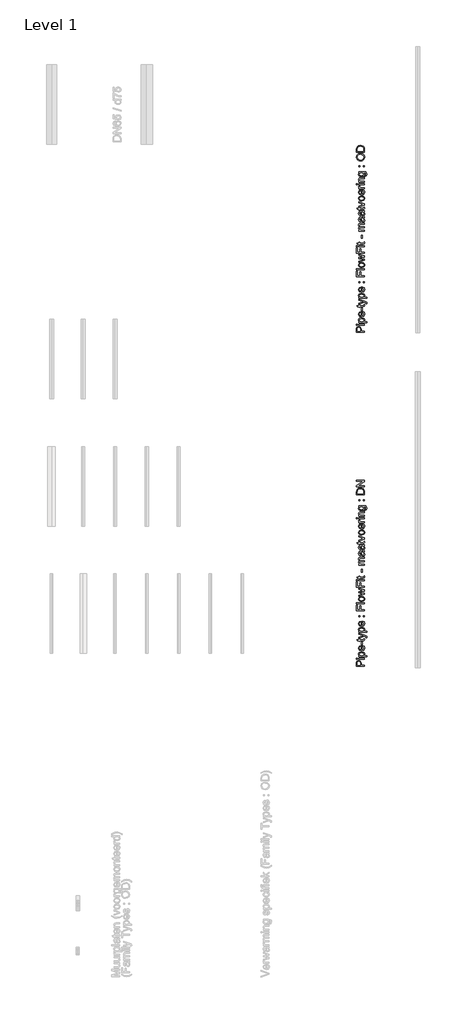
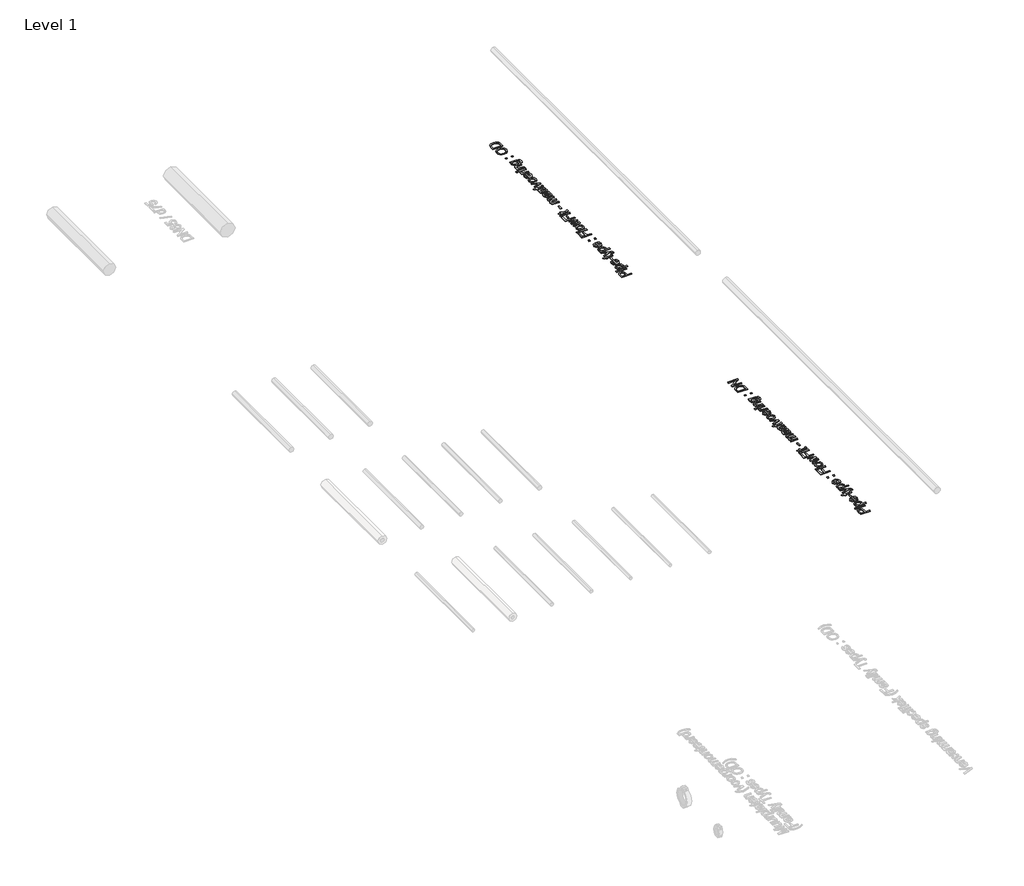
# One storey, part 11 of 11: 2 proxies.
"""IFC4 building model written with IfcOpenShell, lengths in millimetres."""

from ifc_helpers import new_model, si_unit, origin, origin_with_axes, place, context, project, spatial, polyline, outline, extrude, element, save

model = new_model("IFC4")

# Units and contexts
model_context = context("Model", 3, world=origin())
ifc_project = project(units=[si_unit("LENGTHUNIT", "METRE", prefix="MILLI")], contexts=[model_context])

# Site, building, storey
site = spatial("IfcSite", under=ifc_project)
building = spatial("IfcBuilding", under=site)
storey = spatial("IfcBuildingStorey", under=building, Name="Level 1", Elevation=0.0)

# Proxies
placement = place(None, origin())
element("IfcBuildingElementProxy", 1, Name="S", ObjectType="S", at=placement, inside=storey, context=model_context, shape_type="SweptSolid", body=[
    extrude(outline(polyline([(4105.0, 4008.4123634), (4054.7718449, 4008.4123634), (4054.7718449, 4027.0271924), (4055.2500915, 4034.5319851), (4057.5984049, 4040.6326948), (4062.4544473, 4044.5874263), (4069.3031837, 4046.0834797), (4080.1557026, 4042.0429092), (4084.594812, 4027.4563881), (4084.594812, 4014.6908828), (4105.0, 4014.6908828), (4105.0, 4008.4123634)]), holes=[polyline([(4078.3162926, 4014.6908828), (4078.3162926, 4027.82427), (4076.0108988, 4037.0703709), (4069.5239129, 4039.8049604), (4064.3245141, 4038.1924109), (4061.47956, 4033.9556366), (4061.0503643, 4027.6771172), (4061.0503643, 4014.6908828), (4078.3162926, 4014.6908828)])]), origin_with_axes(), (0.0, 0.0, 1.0), 3.0),
    extrude(outline(polyline([(4105.0, 4053.931629), (4068.1136986, 4053.931629), (4068.1136986, 4060.2101484), (4105.0, 4060.2101484), (4105.0, 4053.931629)])), origin_with_axes(), (0.0, 0.0, 1.0), 3.0),
    extrude(outline(polyline([(4061.0503643, 4053.931629), (4054.7718449, 4053.931629), (4054.7718449, 4060.2101484), (4061.0503643, 4060.2101484), (4061.0503643, 4053.931629)])), origin_with_axes(), (0.0, 0.0, 1.0), 3.0),
    extrude(outline(polyline([(4119.1266686, 4069.6279274), (4068.1136986, 4069.6279274), (4068.1136986, 4075.9064468), (4074.2695907, 4075.9064468), (4069.0640604, 4080.2474544), (4067.3288837, 4086.1090408), (4069.7569049, 4094.0675546), (4076.59951, 4099.2669535), (4086.2748064, 4101.0205244), (4096.4467436, 4099.0400929), (4103.3751879, 4093.2888711), (4105.7848149, 4085.3487514), (4104.1722655, 4079.8857037), (4100.0949067, 4075.9064468), (4119.1266686, 4075.9064468), (4119.1266686, 4069.6279274)]), holes=[polyline([(4086.8511549, 4075.9064468), (4096.4160868, 4078.6226422), (4099.5062955, 4085.2138613), (4096.3057222, 4091.9399704), (4086.385171, 4094.742005), (4076.7957137, 4092.0074155), (4073.6074031, 4085.4713787), (4076.9980488, 4078.8065832), (4086.8511549, 4075.9064468)])]), origin_with_axes(), (0.0, 0.0, 1.0), 3.0),
    extrude(outline(polyline([(4094.0125911, 4133.9091747), (4094.797406, 4140.0650668), (4102.9030726, 4134.3077136), (4105.7848149, 4123.5839534), (4100.8122766, 4110.548668), (4086.8634176, 4105.7294139), (4072.4547062, 4110.597719), (4067.3288837, 4123.2283341), (4072.4424434, 4135.4971987), (4086.8266294, 4140.2612705), (4088.5188866, 4140.2244823), (4088.5188866, 4112.0079333), (4096.6736042, 4115.6193082), (4099.5062955, 4123.7065807), (4098.1941831, 4129.8624728), (4094.0125911, 4133.9091747)]), holes=[polyline([(4082.2403672, 4112.0079333), (4082.2403672, 4133.9827511), (4076.550459, 4131.4688908), (4073.6074031, 4123.2038087), (4075.9557165, 4115.4721554), (4082.2403672, 4112.0079333)])]), origin_with_axes(), (0.0, 0.0, 1.0), 3.0),
    extrude(outline(polyline([(4090.0885165, 4143.4005302), (4083.8099971, 4143.4005302), (4083.8099971, 4163.0209033), (4090.0885165, 4163.0209033), (4090.0885165, 4143.4005302)])), origin_with_axes(), (0.0, 0.0, 1.0), 3.0),
    extrude(outline(polyline([(4099.7638129, 4183.4260913), (4105.183941, 4184.2109062), (4105.7848149, 4179.5142794), (4104.7424826, 4174.2535669), (4102.0078931, 4171.629342), (4094.8832451, 4170.8690525), (4074.392218, 4170.8690525), (4074.392218, 4166.160163), (4068.1136986, 4166.160163), (4068.1136986, 4170.8690525), (4059.1496407, 4170.8690525), (4055.458558, 4177.1475719), (4068.1136986, 4177.1475719), (4068.1136986, 4183.4260913), (4074.392218, 4183.4260913), (4074.392218, 4177.1475719), (4094.6993041, 4177.1475719), (4097.9366657, 4177.4786657), (4099.5062955, 4180.6915018), (4099.7638129, 4183.4260913)])), origin_with_axes(), (0.0, 0.0, 1.0), 3.0),
    extrude(outline(polyline([(4119.1266686, 4189.7046107), (4113.0811412, 4188.9197957), (4113.6329642, 4192.1081064), (4112.9401197, 4195.0879505), (4111.0087393, 4196.9150978), (4106.3856888, 4198.6318804), (4104.8651099, 4199.1223897), (4068.1136986, 4185.780536), (4068.1136986, 4192.402412), (4088.592463, 4199.478009), (4096.7839688, 4201.9428184), (4089.5489562, 4204.4076277), (4068.1136986, 4211.6794285), (4068.1136986, 4218.2522535), (4105.8829168, 4205.4131719), (4114.0744225, 4202.0777084), (4118.5012692, 4198.4356767), (4119.9114835, 4193.5428461), (4119.1266686, 4189.7046107)])), origin_with_axes(), (0.0, 0.0, 1.0), 3.0),
    extrude(outline(polyline([(4119.1266686, 4223.4516523), (4068.1136986, 4223.4516523), (4068.1136986, 4229.7301717), (4074.2695907, 4229.7301717), (4069.0640604, 4234.0711793), (4067.3288837, 4239.9327657), (4069.7569049, 4247.8912796), (4076.59951, 4253.0906784), (4086.2748064, 4254.8442493), (4096.4467436, 4252.8638179), (4103.3751879, 4247.112596), (4105.7848149, 4239.1724763), (4104.1722655, 4233.7094286), (4100.0949067, 4229.7301717), (4119.1266686, 4229.7301717), (4119.1266686, 4223.4516523)]), holes=[polyline([(4086.8511549, 4229.7301717), (4096.4160868, 4232.4463671), (4099.5062955, 4239.0375862), (4096.3057222, 4245.7636954), (4086.385171, 4248.5657299), (4076.7957137, 4245.8311404), (4073.6074031, 4239.2951036), (4076.9980488, 4232.6303081), (4086.8511549, 4229.7301717)])]), origin_with_axes(), (0.0, 0.0, 1.0), 3.0),
    extrude(outline(polyline([(4094.0125911, 4287.7328996), (4094.797406, 4293.8887917), (4102.9030726, 4288.1314385), (4105.7848149, 4277.4076783), (4100.8122766, 4264.3723929), (4086.8634176, 4259.5531388), (4072.4547062, 4264.4214439), (4067.3288837, 4277.052059), (4072.4424434, 4289.3209236), (4086.8266294, 4294.0849954), (4088.5188866, 4294.0482072), (4088.5188866, 4265.8316582), (4096.6736042, 4269.4430331), (4099.5062955, 4277.5303056), (4098.1941831, 4283.6861977), (4094.0125911, 4287.7328996)]), holes=[polyline([(4082.2403672, 4265.8316582), (4082.2403672, 4287.806476), (4076.550459, 4285.2926157), (4073.6074031, 4277.0275336), (4075.9557165, 4269.2958803), (4082.2403672, 4265.8316582)])]), origin_with_axes(), (0.0, 0.0, 1.0), 3.0),
    extrude(outline(polyline([(4074.392218, 4321.5535177), (4068.1136986, 4321.5535177), (4068.1136986, 4327.8320371), (4074.392218, 4327.8320371), (4074.392218, 4321.5535177)])), origin_with_axes(), (0.0, 0.0, 1.0), 3.0),
    extrude(outline(polyline([(4105.0, 4321.5535177), (4098.7214806, 4321.5535177), (4098.7214806, 4327.8320371), (4105.0, 4327.8320371), (4105.0, 4321.5535177)])), origin_with_axes(), (0.0, 0.0, 1.0), 3.0),
    extrude(outline(polyline([(4105.0, 4360.009449), (4054.7718449, 4360.009449), (4054.7718449, 4393.7564907), (4061.0503643, 4393.7564907), (4061.0503643, 4366.2879683), (4075.9618478, 4366.2879683), (4075.9618478, 4389.832416), (4082.2403672, 4389.832416), (4082.2403672, 4366.2879683), (4105.0, 4366.2879683), (4105.0, 4360.009449)])), origin_with_axes(), (0.0, 0.0, 1.0), 3.0),
    extrude(outline(polyline([(4105.0, 4401.6046399), (4054.7718449, 4401.6046399), (4054.7718449, 4407.8831593), (4105.0, 4407.8831593), (4105.0, 4401.6046399)])), origin_with_axes(), (0.0, 0.0, 1.0), 3.0),
    extrude(outline(polyline([(4086.5568493, 4415.7313085), (4077.6633021, 4417.0894062), (4071.4123738, 4421.1636993), (4067.3288837, 4432.2246846), (4072.301422, 4444.088879), (4086.0418145, 4448.6935353), (4097.2131644, 4446.6579216), (4103.5346034, 4440.7288901), (4105.7848149, 4432.2246846), (4100.8306707, 4420.2869139), (4086.5568493, 4415.7313085)]), holes=[polyline([(4086.5445866, 4422.0098279), (4096.2750653, 4424.9160956), (4099.5062955, 4432.2246846), (4096.2566712, 4439.5087481), (4086.3483828, 4442.4150159), (4076.8386333, 4439.490354), (4073.6074031, 4432.2246846), (4076.8263705, 4424.9160956), (4086.5445866, 4422.0098279)])]), origin_with_axes(), (0.0, 0.0, 1.0), 3.0),
    extrude(outline(polyline([(4105.0, 4461.8759734), (4068.1136986, 4450.6555726), (4068.1136986, 4457.1793466), (4089.6347953, 4463.5437051), (4097.323529, 4465.4444288), (4089.9168382, 4467.0017959), (4068.1136986, 4472.0663047), (4068.1136986, 4479.5465719), (4089.8555245, 4484.5865553), (4096.5632396, 4485.9722441), (4089.4876425, 4487.9588069), (4068.1136986, 4494.3354281), (4068.1136986, 4500.8837276), (4105.0, 4489.5774877), (4105.0, 4481.9868558), (4083.3685387, 4477.1676017), (4076.6240354, 4475.7696501), (4105.0, 4469.5524444), (4105.0, 4461.8759734)])), origin_with_axes(), (0.0, 0.0, 1.0), 3.0),
    extrude(outline(polyline([(4105.0, 4505.9850246), (4054.7718449, 4505.9850246), (4054.7718449, 4539.7320663), (4061.0503643, 4539.7320663), (4061.0503643, 4512.263544), (4075.9618478, 4512.263544), (4075.9618478, 4535.8079917), (4082.2403672, 4535.8079917), (4082.2403672, 4512.263544), (4105.0, 4512.263544), (4105.0, 4505.9850246)])), origin_with_axes(), (0.0, 0.0, 1.0), 3.0),
    extrude(outline(polyline([(4061.0503643, 4547.5802156), (4054.7718449, 4547.5802156), (4054.7718449, 4553.858735), (4061.0503643, 4553.858735), (4061.0503643, 4547.5802156)])), origin_with_axes(), (0.0, 0.0, 1.0), 3.0),
    extrude(outline(polyline([(4105.0, 4547.5802156), (4068.1136986, 4547.5802156), (4068.1136986, 4553.858735), (4105.0, 4553.858735), (4105.0, 4547.5802156)])), origin_with_axes(), (0.0, 0.0, 1.0), 3.0),
    extrude(outline(polyline([(4099.7638129, 4576.6183677), (4105.183941, 4577.4031826), (4105.7848149, 4572.7065558), (4104.7424826, 4567.4458433), (4102.0078931, 4564.8216184), (4094.8832451, 4564.061329), (4074.392218, 4564.061329), (4074.392218, 4559.3524394), (4068.1136986, 4559.3524394), (4068.1136986, 4564.061329), (4059.1496407, 4564.061329), (4055.458558, 4570.3398483), (4068.1136986, 4570.3398483), (4068.1136986, 4576.6183677), (4074.392218, 4576.6183677), (4074.392218, 4570.3398483), (4094.6993041, 4570.3398483), (4097.9366657, 4570.6709421), (4099.5062955, 4573.8837782), (4099.7638129, 4576.6183677)])), origin_with_axes(), (0.0, 0.0, 1.0), 3.0),
    extrude(outline(polyline([(4090.0885165, 4599.3780005), (4083.8099971, 4599.3780005), (4083.8099971, 4618.9983736), (4090.0885165, 4618.9983736), (4090.0885165, 4599.3780005)])), origin_with_axes(), (0.0, 0.0, 1.0), 3.0),
    extrude(outline(polyline([(4105.0, 4645.6820809), (4068.1136986, 4645.6820809), (4068.1136986, 4651.9606003), (4074.1837515, 4651.9606003), (4069.2112132, 4656.2770824), (4067.3288837, 4662.4207117), (4069.2480014, 4668.7114938), (4074.6252099, 4672.1695846), (4069.1529653, 4677.0685465), (4067.3288837, 4683.2550954), (4070.3639102, 4691.4649952), (4079.7142442, 4694.3406062), (4105.0, 4694.3406062), (4105.0, 4688.0620868), (4082.4120455, 4688.0620868), (4077.1697271, 4687.479607), (4074.5884217, 4685.3704169), (4073.6074031, 4681.7835674), (4076.1212634, 4675.6092813), (4084.1778791, 4673.1506033), (4105.0, 4673.1506033), (4105.0, 4666.8720839), (4081.7130697, 4666.8720839), (4075.6307541, 4665.41895), (4073.6074031, 4660.6548782), (4074.9563037, 4656.0073023), (4078.9049038, 4652.9170935), (4086.3974338, 4651.9606003), (4105.0, 4651.9606003), (4105.0, 4645.6820809)])), origin_with_axes(), (0.0, 0.0, 1.0), 3.0),
    extrude(outline(polyline([(4100.2911105, 4727.3028329), (4104.5462789, 4721.2143859), (4105.7848149, 4714.4882768), (4102.8049708, 4705.3709347), (4095.1898135, 4702.1887554), (4090.2234065, 4703.3905033), (4086.618163, 4706.548157), (4084.5580238, 4710.9443469), (4083.6137933, 4716.3767377), (4081.4555523, 4727.2660447), (4075.4222876, 4725.5737876), (4073.6074031, 4718.6330806), (4074.8152823, 4712.2809848), (4079.1011075, 4709.2520897), (4078.3162926, 4702.9735703), (4072.184926, 4705.6897657), (4068.5919452, 4711.1589447), (4067.3288837, 4719.442421), (4068.4447924, 4727.0514469), (4071.2468269, 4731.3495349), (4075.5081267, 4733.274784), (4081.0018312, 4733.5813523), (4088.8131922, 4733.5813523), (4099.7208934, 4733.9001834), (4105.0, 4735.1509822), (4105.0, 4728.8724628), (4100.2911105, 4727.3028329)]), holes=[polyline([(4087.7340717, 4727.3028329), (4089.6593208, 4717.1738153), (4090.6771277, 4711.7720814), (4092.3325966, 4709.3256661), (4094.7483551, 4708.4672748), (4098.1451322, 4710.3373416), (4099.5062955, 4715.8249147), (4098.0041107, 4722.1770105), (4094.3682103, 4726.2727634), (4089.512168, 4727.2660447), (4087.7340717, 4727.3028329)])]), origin_with_axes(), (0.0, 0.0, 1.0), 3.0),
    extrude(outline(polyline([(4100.2911105, 4765.7587642), (4104.5462789, 4759.6703172), (4105.7848149, 4752.944208), (4102.8049708, 4743.8268659), (4095.1898135, 4740.6446866), (4090.2234065, 4741.8464345), (4086.618163, 4745.0040883), (4084.5580238, 4749.4002781), (4083.6137933, 4754.8326689), (4081.4555523, 4765.721976), (4075.4222876, 4764.0297188), (4073.6074031, 4757.0890118), (4074.8152823, 4750.736916), (4079.1011075, 4747.7080209), (4078.3162926, 4741.4295016), (4072.184926, 4744.145697), (4068.5919452, 4749.614876), (4067.3288837, 4757.8983522), (4068.4447924, 4765.5073781), (4071.2468269, 4769.8054661), (4075.5081267, 4771.7307152), (4081.0018312, 4772.0372836), (4088.8131922, 4772.0372836), (4099.7208934, 4772.3561146), (4105.0, 4773.6069134), (4105.0, 4767.328394), (4100.2911105, 4765.7587642)]), holes=[polyline([(4087.7340717, 4765.7587642), (4089.6593208, 4755.6297466), (4090.6771277, 4750.2280126), (4092.3325966, 4747.7815973), (4094.7483551, 4746.923206), (4098.1451322, 4748.7932728), (4099.5062955, 4754.2808459), (4098.0041107, 4760.6329417), (4094.3682103, 4764.7286946), (4089.512168, 4765.721976), (4087.7340717, 4765.7587642)])]), origin_with_axes(), (0.0, 0.0, 1.0), 3.0),
    extrude(outline(polyline([(4099.7638129, 4794.0121014), (4105.183941, 4794.7969163), (4105.7848149, 4790.1002895), (4104.7424826, 4784.839577), (4102.0078931, 4782.2153521), (4094.8832451, 4781.4550626), (4074.392218, 4781.4550626), (4074.392218, 4776.7461731), (4068.1136986, 4776.7461731), (4068.1136986, 4781.4550626), (4059.1496407, 4781.4550626), (4055.458558, 4787.733582), (4068.1136986, 4787.733582), (4068.1136986, 4794.0121014), (4074.392218, 4794.0121014), (4074.392218, 4787.733582), (4094.6993041, 4787.733582), (4097.9366657, 4788.0646758), (4099.5062955, 4791.2775119), (4099.7638129, 4794.0121014)])), origin_with_axes(), (0.0, 0.0, 1.0), 3.0),
    extrude(outline(polyline([(4105.0, 4809.3405179), (4068.1136986, 4796.3665462), (4068.1136986, 4803.0129476), (4090.2111438, 4810.8733595), (4097.6423601, 4813.240067), (4090.6280767, 4815.5577236), (4068.1136986, 4823.4671865), (4068.1136986, 4830.1135879), (4105.0, 4817.2990317), (4105.0, 4809.3405179)])), origin_with_axes(), (0.0, 0.0, 1.0), 3.0),
    extrude(outline(polyline([(4086.5568493, 4834.0376625), (4077.6633021, 4835.3957602), (4071.4123738, 4839.4700533), (4067.3288837, 4850.5310386), (4072.301422, 4862.3952329), (4086.0418145, 4866.9998892), (4097.2131644, 4864.9642755), (4103.5346034, 4859.0352441), (4105.7848149, 4850.5310386), (4100.8306707, 4838.5932679), (4086.5568493, 4834.0376625)]), holes=[polyline([(4086.5445866, 4840.3161819), (4096.2750653, 4843.2224496), (4099.5062955, 4850.5310386), (4096.2566712, 4857.8151021), (4086.3483828, 4860.7213699), (4076.8386333, 4857.796708), (4073.6074031, 4850.5310386), (4076.8263705, 4843.2224496), (4086.5445866, 4840.3161819)])]), origin_with_axes(), (0.0, 0.0, 1.0), 3.0),
    extrude(outline(polyline([(4094.0125911, 4899.8885396), (4094.797406, 4906.0444317), (4102.9030726, 4900.2870784), (4105.7848149, 4889.5633183), (4100.8122766, 4876.5280329), (4086.8634176, 4871.7087788), (4072.4547062, 4876.5770839), (4067.3288837, 4889.207699), (4072.4424434, 4901.4765636), (4086.8266294, 4906.2406354), (4088.5188866, 4906.2038472), (4088.5188866, 4877.9872982), (4096.6736042, 4881.5986731), (4099.5062955, 4889.6859456), (4098.1941831, 4895.8418377), (4094.0125911, 4899.8885396)]), holes=[polyline([(4082.2403672, 4877.9872982), (4082.2403672, 4899.962116), (4076.550459, 4897.4482557), (4073.6074031, 4889.1831736), (4075.9557165, 4881.4515203), (4082.2403672, 4877.9872982)])]), origin_with_axes(), (0.0, 0.0, 1.0), 3.0),
    extrude(outline(polyline([(4105.0, 4912.5191548), (4068.1136986, 4912.5191548), (4068.1136986, 4918.0128592), (4073.5706149, 4918.0128592), (4068.5428943, 4921.9124084), (4067.3288837, 4925.836483), (4069.2663955, 4932.1395279), (4074.8949901, 4930.0426005), (4073.6074031, 4925.6280165), (4074.8459391, 4922.0779553), (4078.2795044, 4919.815481), (4085.6126189, 4918.7976742), (4105.0, 4918.7976742), (4105.0, 4912.5191548)])), origin_with_axes(), (0.0, 0.0, 1.0), 3.0),
    extrude(outline(polyline([(4061.0503643, 4936.0636025), (4054.7718449, 4936.0636025), (4054.7718449, 4942.3421219), (4061.0503643, 4942.3421219), (4061.0503643, 4936.0636025)])), origin_with_axes(), (0.0, 0.0, 1.0), 3.0),
    extrude(outline(polyline([(4105.0, 4936.0636025), (4068.1136986, 4936.0636025), (4068.1136986, 4942.3421219), (4105.0, 4942.3421219), (4105.0, 4936.0636025)])), origin_with_axes(), (0.0, 0.0, 1.0), 3.0),
    extrude(outline(polyline([(4105.0, 4951.7599009), (4068.1136986, 4951.7599009), (4068.1136986, 4958.0384203), (4073.2640465, 4958.0384203), (4068.8126744, 4962.8392804), (4067.3288837, 4969.3937112), (4068.5245002, 4975.3227427), (4071.6637599, 4979.3694447), (4076.2806789, 4981.2517742), (4082.3507318, 4981.582868), (4105.0, 4981.582868), (4105.0, 4975.3043486), (4083.1968604, 4975.3043486), (4077.6418423, 4974.5808474), (4074.7049177, 4972.0240675), (4073.6074031, 4967.7137168), (4076.0722124, 4960.9017685), (4085.4286779, 4958.0384203), (4105.0, 4958.0384203), (4105.0, 4951.7599009)])), origin_with_axes(), (0.0, 0.0, 1.0), 3.0),
    extrude(outline(polyline([(4108.1392597, 4988.6462023), (4108.9240746, 4994.9247217), (4112.2350126, 4996.9603354), (4113.6329642, 5003.0549138), (4112.0510716, 5009.480586), (4107.6119622, 5012.5462693), (4100.2911105, 5012.9754649), (4105.0, 5003.1652784), (4103.6296396, 4996.6920881), (4099.5185583, 4991.8651698), (4086.3729083, 4987.8613874), (4076.6424295, 4989.6578778), (4069.7569049, 4994.8572767), (4067.3288837, 5002.8587101), (4072.8225882, 5012.9754649), (4068.1136986, 5012.9754649), (4068.1136986, 5019.2539843), (4099.9600167, 5019.2539843), (4112.1553048, 5017.5372017), (4117.8268189, 5012.0986795), (4119.9114835, 5002.9322865), (4116.9745589, 4992.4905692), (4108.1392597, 4988.6462023)]), holes=[polyline([(4085.9437126, 4994.1399068), (4095.6619287, 4996.819314), (4098.7214806, 5003.5454231), (4095.6803228, 5010.2592695), (4086.1276536, 5012.9754649), (4076.7650569, 5010.1795618), (4073.6074031, 5003.4473213), (4076.7160059, 4996.8561022), (4085.9437126, 4994.1399068)])]), origin_with_axes(), (0.0, 0.0, 1.0), 3.0),
    extrude(outline(polyline([(4074.392218, 5049.8617663), (4068.1136986, 5049.8617663), (4068.1136986, 5056.1402857), (4074.392218, 5056.1402857), (4074.392218, 5049.8617663)])), origin_with_axes(), (0.0, 0.0, 1.0), 3.0),
    extrude(outline(polyline([(4105.0, 5049.8617663), (4098.7214806, 5049.8617663), (4098.7214806, 5056.1402857), (4105.0, 5056.1402857), (4105.0, 5049.8617663)])), origin_with_axes(), (0.0, 0.0, 1.0), 3.0),
    extrude(outline(polyline([(4105.0, 5088.3176975), (4054.7718449, 5088.3176975), (4054.7718449, 5105.6449395), (4055.4953462, 5114.6089975), (4059.088327, 5121.9911628), (4067.6722402, 5127.9385884), (4079.6161423, 5129.9128885), (4089.7512913, 5128.5762505), (4097.0660116, 5125.1426853), (4101.621617, 5120.5564231), (4104.1416087, 5114.5538152), (4105.0, 5106.4788054), (4105.0, 5088.3176975)]), holes=[polyline([(4098.7214806, 5094.5962169), (4098.7214806, 5105.7062532), (4097.8140384, 5113.7873943), (4095.2511271, 5118.4472329), (4089.0155273, 5122.2670743), (4079.5180405, 5123.6343691), (4067.6231893, 5120.9549619), (4062.0559084, 5114.4373192), (4061.0503643, 5105.5345749), (4061.0503643, 5094.5962169), (4098.7214806, 5094.5962169)])]), origin_with_axes(), (0.0, 0.0, 1.0), 3.0),
    extrude(outline(polyline([(4105.0, 5138.5458526), (4054.7718449, 5138.5458526), (4054.7718449, 5145.2658304), (4094.5644141, 5171.5080794), (4054.7718449, 5171.5080794), (4054.7718449, 5177.7865988), (4105.0, 5177.7865988), (4105.0, 5171.066621), (4065.1951681, 5144.824372), (4105.0, 5144.824372), (4105.0, 5138.5458526)])), origin_with_axes(), (0.0, 0.0, 1.0), 3.0),
])
element("IfcBuildingElementProxy", 2, Name="S", ObjectType="S", at=placement, inside=storey, context=model_context, shape_type="SweptSolid", body=[
    extrude(outline(polyline([(4105.0, 6108.4123634), (4054.7718449, 6108.4123634), (4054.7718449, 6127.0271924), (4055.2500915, 6134.5319851), (4057.5984049, 6140.6326948), (4062.4544473, 6144.5874263), (4069.3031837, 6146.0834797), (4080.1557026, 6142.0429092), (4084.594812, 6127.4563881), (4084.594812, 6114.6908828), (4105.0, 6114.6908828), (4105.0, 6108.4123634)]), holes=[polyline([(4078.3162926, 6114.6908828), (4078.3162926, 6127.82427), (4076.0108988, 6137.0703709), (4069.5239129, 6139.8049604), (4064.3245141, 6138.1924109), (4061.47956, 6133.9556366), (4061.0503643, 6127.6771172), (4061.0503643, 6114.6908828), (4078.3162926, 6114.6908828)])]), origin_with_axes(), (0.0, 0.0, 1.0), 3.0),
    extrude(outline(polyline([(4105.0, 6153.931629), (4068.1136986, 6153.931629), (4068.1136986, 6160.2101484), (4105.0, 6160.2101484), (4105.0, 6153.931629)])), origin_with_axes(), (0.0, 0.0, 1.0), 3.0),
    extrude(outline(polyline([(4061.0503643, 6153.931629), (4054.7718449, 6153.931629), (4054.7718449, 6160.2101484), (4061.0503643, 6160.2101484), (4061.0503643, 6153.931629)])), origin_with_axes(), (0.0, 0.0, 1.0), 3.0),
    extrude(outline(polyline([(4119.1266686, 6169.6279274), (4068.1136986, 6169.6279274), (4068.1136986, 6175.9064468), (4074.2695907, 6175.9064468), (4069.0640604, 6180.2474544), (4067.3288837, 6186.1090408), (4069.7569049, 6194.0675546), (4076.59951, 6199.2669535), (4086.2748064, 6201.0205244), (4096.4467436, 6199.0400929), (4103.3751879, 6193.2888711), (4105.7848149, 6185.3487514), (4104.1722655, 6179.8857037), (4100.0949067, 6175.9064468), (4119.1266686, 6175.9064468), (4119.1266686, 6169.6279274)]), holes=[polyline([(4086.8511549, 6175.9064468), (4096.4160868, 6178.6226422), (4099.5062955, 6185.2138613), (4096.3057222, 6191.9399704), (4086.385171, 6194.742005), (4076.7957137, 6192.0074155), (4073.6074031, 6185.4713787), (4076.9980488, 6178.8065832), (4086.8511549, 6175.9064468)])]), origin_with_axes(), (0.0, 0.0, 1.0), 3.0),
    extrude(outline(polyline([(4094.0125911, 6233.9091747), (4094.797406, 6240.0650668), (4102.9030726, 6234.3077136), (4105.7848149, 6223.5839534), (4100.8122766, 6210.548668), (4086.8634176, 6205.7294139), (4072.4547062, 6210.597719), (4067.3288837, 6223.2283341), (4072.4424434, 6235.4971987), (4086.8266294, 6240.2612705), (4088.5188866, 6240.2244823), (4088.5188866, 6212.0079333), (4096.6736042, 6215.6193082), (4099.5062955, 6223.7065807), (4098.1941831, 6229.8624728), (4094.0125911, 6233.9091747)]), holes=[polyline([(4082.2403672, 6212.0079333), (4082.2403672, 6233.9827511), (4076.550459, 6231.4688908), (4073.6074031, 6223.2038087), (4075.9557165, 6215.4721554), (4082.2403672, 6212.0079333)])]), origin_with_axes(), (0.0, 0.0, 1.0), 3.0),
    extrude(outline(polyline([(4090.0885165, 6243.4005302), (4083.8099971, 6243.4005302), (4083.8099971, 6263.0209033), (4090.0885165, 6263.0209033), (4090.0885165, 6243.4005302)])), origin_with_axes(), (0.0, 0.0, 1.0), 3.0),
    extrude(outline(polyline([(4099.7638129, 6283.4260913), (4105.183941, 6284.2109062), (4105.7848149, 6279.5142794), (4104.7424826, 6274.2535669), (4102.0078931, 6271.629342), (4094.8832451, 6270.8690525), (4074.392218, 6270.8690525), (4074.392218, 6266.160163), (4068.1136986, 6266.160163), (4068.1136986, 6270.8690525), (4059.1496407, 6270.8690525), (4055.458558, 6277.1475719), (4068.1136986, 6277.1475719), (4068.1136986, 6283.4260913), (4074.392218, 6283.4260913), (4074.392218, 6277.1475719), (4094.6993041, 6277.1475719), (4097.9366657, 6277.4786657), (4099.5062955, 6280.6915018), (4099.7638129, 6283.4260913)])), origin_with_axes(), (0.0, 0.0, 1.0), 3.0),
    extrude(outline(polyline([(4119.1266686, 6289.7046107), (4113.0811412, 6288.9197957), (4113.6329642, 6292.1081064), (4112.9401197, 6295.0879505), (4111.0087393, 6296.9150978), (4106.3856888, 6298.6318804), (4104.8651099, 6299.1223897), (4068.1136986, 6285.780536), (4068.1136986, 6292.402412), (4088.592463, 6299.478009), (4096.7839688, 6301.9428184), (4089.5489562, 6304.4076277), (4068.1136986, 6311.6794285), (4068.1136986, 6318.2522535), (4105.8829168, 6305.4131719), (4114.0744225, 6302.0777084), (4118.5012692, 6298.4356767), (4119.9114835, 6293.5428461), (4119.1266686, 6289.7046107)])), origin_with_axes(), (0.0, 0.0, 1.0), 3.0),
    extrude(outline(polyline([(4119.1266686, 6323.4516523), (4068.1136986, 6323.4516523), (4068.1136986, 6329.7301717), (4074.2695907, 6329.7301717), (4069.0640604, 6334.0711793), (4067.3288837, 6339.9327657), (4069.7569049, 6347.8912796), (4076.59951, 6353.0906784), (4086.2748064, 6354.8442493), (4096.4467436, 6352.8638179), (4103.3751879, 6347.112596), (4105.7848149, 6339.1724763), (4104.1722655, 6333.7094286), (4100.0949067, 6329.7301717), (4119.1266686, 6329.7301717), (4119.1266686, 6323.4516523)]), holes=[polyline([(4086.8511549, 6329.7301717), (4096.4160868, 6332.4463671), (4099.5062955, 6339.0375862), (4096.3057222, 6345.7636954), (4086.385171, 6348.5657299), (4076.7957137, 6345.8311404), (4073.6074031, 6339.2951036), (4076.9980488, 6332.6303081), (4086.8511549, 6329.7301717)])]), origin_with_axes(), (0.0, 0.0, 1.0), 3.0),
    extrude(outline(polyline([(4094.0125911, 6387.7328996), (4094.797406, 6393.8887917), (4102.9030726, 6388.1314385), (4105.7848149, 6377.4076783), (4100.8122766, 6364.3723929), (4086.8634176, 6359.5531388), (4072.4547062, 6364.4214439), (4067.3288837, 6377.052059), (4072.4424434, 6389.3209236), (4086.8266294, 6394.0849954), (4088.5188866, 6394.0482072), (4088.5188866, 6365.8316582), (4096.6736042, 6369.4430331), (4099.5062955, 6377.5303056), (4098.1941831, 6383.6861977), (4094.0125911, 6387.7328996)]), holes=[polyline([(4082.2403672, 6365.8316582), (4082.2403672, 6387.806476), (4076.550459, 6385.2926157), (4073.6074031, 6377.0275336), (4075.9557165, 6369.2958803), (4082.2403672, 6365.8316582)])]), origin_with_axes(), (0.0, 0.0, 1.0), 3.0),
    extrude(outline(polyline([(4074.392218, 6421.5535177), (4068.1136986, 6421.5535177), (4068.1136986, 6427.8320371), (4074.392218, 6427.8320371), (4074.392218, 6421.5535177)])), origin_with_axes(), (0.0, 0.0, 1.0), 3.0),
    extrude(outline(polyline([(4105.0, 6421.5535177), (4098.7214806, 6421.5535177), (4098.7214806, 6427.8320371), (4105.0, 6427.8320371), (4105.0, 6421.5535177)])), origin_with_axes(), (0.0, 0.0, 1.0), 3.0),
    extrude(outline(polyline([(4105.0, 6460.009449), (4054.7718449, 6460.009449), (4054.7718449, 6493.7564907), (4061.0503643, 6493.7564907), (4061.0503643, 6466.2879683), (4075.9618478, 6466.2879683), (4075.9618478, 6489.832416), (4082.2403672, 6489.832416), (4082.2403672, 6466.2879683), (4105.0, 6466.2879683), (4105.0, 6460.009449)])), origin_with_axes(), (0.0, 0.0, 1.0), 3.0),
    extrude(outline(polyline([(4105.0, 6501.6046399), (4054.7718449, 6501.6046399), (4054.7718449, 6507.8831593), (4105.0, 6507.8831593), (4105.0, 6501.6046399)])), origin_with_axes(), (0.0, 0.0, 1.0), 3.0),
    extrude(outline(polyline([(4086.5568493, 6515.7313085), (4077.6633021, 6517.0894062), (4071.4123738, 6521.1636993), (4067.3288837, 6532.2246846), (4072.301422, 6544.088879), (4086.0418145, 6548.6935353), (4097.2131644, 6546.6579216), (4103.5346034, 6540.7288901), (4105.7848149, 6532.2246846), (4100.8306707, 6520.2869139), (4086.5568493, 6515.7313085)]), holes=[polyline([(4086.5445866, 6522.0098279), (4096.2750653, 6524.9160956), (4099.5062955, 6532.2246846), (4096.2566712, 6539.5087481), (4086.3483828, 6542.4150159), (4076.8386333, 6539.490354), (4073.6074031, 6532.2246846), (4076.8263705, 6524.9160956), (4086.5445866, 6522.0098279)])]), origin_with_axes(), (0.0, 0.0, 1.0), 3.0),
    extrude(outline(polyline([(4105.0, 6561.8759734), (4068.1136986, 6550.6555726), (4068.1136986, 6557.1793466), (4089.6347953, 6563.5437051), (4097.323529, 6565.4444288), (4089.9168382, 6567.0017959), (4068.1136986, 6572.0663047), (4068.1136986, 6579.5465719), (4089.8555245, 6584.5865553), (4096.5632396, 6585.9722441), (4089.4876425, 6587.9588069), (4068.1136986, 6594.3354281), (4068.1136986, 6600.8837276), (4105.0, 6589.5774877), (4105.0, 6581.9868558), (4083.3685387, 6577.1676017), (4076.6240354, 6575.7696501), (4105.0, 6569.5524444), (4105.0, 6561.8759734)])), origin_with_axes(), (0.0, 0.0, 1.0), 3.0),
    extrude(outline(polyline([(4105.0, 6605.9850246), (4054.7718449, 6605.9850246), (4054.7718449, 6639.7320663), (4061.0503643, 6639.7320663), (4061.0503643, 6612.263544), (4075.9618478, 6612.263544), (4075.9618478, 6635.8079917), (4082.2403672, 6635.8079917), (4082.2403672, 6612.263544), (4105.0, 6612.263544), (4105.0, 6605.9850246)])), origin_with_axes(), (0.0, 0.0, 1.0), 3.0),
    extrude(outline(polyline([(4061.0503643, 6647.5802156), (4054.7718449, 6647.5802156), (4054.7718449, 6653.858735), (4061.0503643, 6653.858735), (4061.0503643, 6647.5802156)])), origin_with_axes(), (0.0, 0.0, 1.0), 3.0),
    extrude(outline(polyline([(4105.0, 6647.5802156), (4068.1136986, 6647.5802156), (4068.1136986, 6653.858735), (4105.0, 6653.858735), (4105.0, 6647.5802156)])), origin_with_axes(), (0.0, 0.0, 1.0), 3.0),
    extrude(outline(polyline([(4099.7638129, 6676.6183677), (4105.183941, 6677.4031826), (4105.7848149, 6672.7065558), (4104.7424826, 6667.4458433), (4102.0078931, 6664.8216184), (4094.8832451, 6664.061329), (4074.392218, 6664.061329), (4074.392218, 6659.3524394), (4068.1136986, 6659.3524394), (4068.1136986, 6664.061329), (4059.1496407, 6664.061329), (4055.458558, 6670.3398483), (4068.1136986, 6670.3398483), (4068.1136986, 6676.6183677), (4074.392218, 6676.6183677), (4074.392218, 6670.3398483), (4094.6993041, 6670.3398483), (4097.9366657, 6670.6709421), (4099.5062955, 6673.8837782), (4099.7638129, 6676.6183677)])), origin_with_axes(), (0.0, 0.0, 1.0), 3.0),
    extrude(outline(polyline([(4090.0885165, 6699.3780005), (4083.8099971, 6699.3780005), (4083.8099971, 6718.9983736), (4090.0885165, 6718.9983736), (4090.0885165, 6699.3780005)])), origin_with_axes(), (0.0, 0.0, 1.0), 3.0),
    extrude(outline(polyline([(4105.0, 6745.6820809), (4068.1136986, 6745.6820809), (4068.1136986, 6751.9606003), (4074.1837515, 6751.9606003), (4069.2112132, 6756.2770824), (4067.3288837, 6762.4207117), (4069.2480014, 6768.7114938), (4074.6252099, 6772.1695846), (4069.1529653, 6777.0685465), (4067.3288837, 6783.2550954), (4070.3639102, 6791.4649952), (4079.7142442, 6794.3406062), (4105.0, 6794.3406062), (4105.0, 6788.0620868), (4082.4120455, 6788.0620868), (4077.1697271, 6787.479607), (4074.5884217, 6785.3704169), (4073.6074031, 6781.7835674), (4076.1212634, 6775.6092813), (4084.1778791, 6773.1506033), (4105.0, 6773.1506033), (4105.0, 6766.8720839), (4081.7130697, 6766.8720839), (4075.6307541, 6765.41895), (4073.6074031, 6760.6548782), (4074.9563037, 6756.0073023), (4078.9049038, 6752.9170935), (4086.3974338, 6751.9606003), (4105.0, 6751.9606003), (4105.0, 6745.6820809)])), origin_with_axes(), (0.0, 0.0, 1.0), 3.0),
    extrude(outline(polyline([(4100.2911105, 6827.3028329), (4104.5462789, 6821.2143859), (4105.7848149, 6814.4882768), (4102.8049708, 6805.3709347), (4095.1898135, 6802.1887554), (4090.2234065, 6803.3905033), (4086.618163, 6806.548157), (4084.5580238, 6810.9443469), (4083.6137933, 6816.3767377), (4081.4555523, 6827.2660447), (4075.4222876, 6825.5737876), (4073.6074031, 6818.6330806), (4074.8152823, 6812.2809848), (4079.1011075, 6809.2520897), (4078.3162926, 6802.9735703), (4072.184926, 6805.6897657), (4068.5919452, 6811.1589447), (4067.3288837, 6819.442421), (4068.4447924, 6827.0514469), (4071.2468269, 6831.3495349), (4075.5081267, 6833.274784), (4081.0018312, 6833.5813523), (4088.8131922, 6833.5813523), (4099.7208934, 6833.9001834), (4105.0, 6835.1509822), (4105.0, 6828.8724628), (4100.2911105, 6827.3028329)]), holes=[polyline([(4087.7340717, 6827.3028329), (4089.6593208, 6817.1738153), (4090.6771277, 6811.7720814), (4092.3325966, 6809.3256661), (4094.7483551, 6808.4672748), (4098.1451322, 6810.3373416), (4099.5062955, 6815.8249147), (4098.0041107, 6822.1770105), (4094.3682103, 6826.2727634), (4089.512168, 6827.2660447), (4087.7340717, 6827.3028329)])]), origin_with_axes(), (0.0, 0.0, 1.0), 3.0),
    extrude(outline(polyline([(4100.2911105, 6865.7587642), (4104.5462789, 6859.6703172), (4105.7848149, 6852.944208), (4102.8049708, 6843.8268659), (4095.1898135, 6840.6446866), (4090.2234065, 6841.8464345), (4086.618163, 6845.0040883), (4084.5580238, 6849.4002781), (4083.6137933, 6854.8326689), (4081.4555523, 6865.721976), (4075.4222876, 6864.0297188), (4073.6074031, 6857.0890118), (4074.8152823, 6850.736916), (4079.1011075, 6847.7080209), (4078.3162926, 6841.4295016), (4072.184926, 6844.145697), (4068.5919452, 6849.614876), (4067.3288837, 6857.8983522), (4068.4447924, 6865.5073781), (4071.2468269, 6869.8054661), (4075.5081267, 6871.7307152), (4081.0018312, 6872.0372836), (4088.8131922, 6872.0372836), (4099.7208934, 6872.3561146), (4105.0, 6873.6069134), (4105.0, 6867.328394), (4100.2911105, 6865.7587642)]), holes=[polyline([(4087.7340717, 6865.7587642), (4089.6593208, 6855.6297466), (4090.6771277, 6850.2280126), (4092.3325966, 6847.7815973), (4094.7483551, 6846.923206), (4098.1451322, 6848.7932728), (4099.5062955, 6854.2808459), (4098.0041107, 6860.6329417), (4094.3682103, 6864.7286946), (4089.512168, 6865.721976), (4087.7340717, 6865.7587642)])]), origin_with_axes(), (0.0, 0.0, 1.0), 3.0),
    extrude(outline(polyline([(4099.7638129, 6894.0121014), (4105.183941, 6894.7969163), (4105.7848149, 6890.1002895), (4104.7424826, 6884.839577), (4102.0078931, 6882.2153521), (4094.8832451, 6881.4550626), (4074.392218, 6881.4550626), (4074.392218, 6876.7461731), (4068.1136986, 6876.7461731), (4068.1136986, 6881.4550626), (4059.1496407, 6881.4550626), (4055.458558, 6887.733582), (4068.1136986, 6887.733582), (4068.1136986, 6894.0121014), (4074.392218, 6894.0121014), (4074.392218, 6887.733582), (4094.6993041, 6887.733582), (4097.9366657, 6888.0646758), (4099.5062955, 6891.2775119), (4099.7638129, 6894.0121014)])), origin_with_axes(), (0.0, 0.0, 1.0), 3.0),
    extrude(outline(polyline([(4105.0, 6909.3405179), (4068.1136986, 6896.3665462), (4068.1136986, 6903.0129476), (4090.2111438, 6910.8733595), (4097.6423601, 6913.240067), (4090.6280767, 6915.5577236), (4068.1136986, 6923.4671865), (4068.1136986, 6930.1135879), (4105.0, 6917.2990317), (4105.0, 6909.3405179)])), origin_with_axes(), (0.0, 0.0, 1.0), 3.0),
    extrude(outline(polyline([(4086.5568493, 6934.0376625), (4077.6633021, 6935.3957602), (4071.4123738, 6939.4700533), (4067.3288837, 6950.5310386), (4072.301422, 6962.3952329), (4086.0418145, 6966.9998892), (4097.2131644, 6964.9642755), (4103.5346034, 6959.0352441), (4105.7848149, 6950.5310386), (4100.8306707, 6938.5932679), (4086.5568493, 6934.0376625)]), holes=[polyline([(4086.5445866, 6940.3161819), (4096.2750653, 6943.2224496), (4099.5062955, 6950.5310386), (4096.2566712, 6957.8151021), (4086.3483828, 6960.7213699), (4076.8386333, 6957.796708), (4073.6074031, 6950.5310386), (4076.8263705, 6943.2224496), (4086.5445866, 6940.3161819)])]), origin_with_axes(), (0.0, 0.0, 1.0), 3.0),
    extrude(outline(polyline([(4094.0125911, 6999.8885396), (4094.797406, 7006.0444317), (4102.9030726, 7000.2870784), (4105.7848149, 6989.5633183), (4100.8122766, 6976.5280329), (4086.8634176, 6971.7087788), (4072.4547062, 6976.5770839), (4067.3288837, 6989.207699), (4072.4424434, 7001.4765636), (4086.8266294, 7006.2406354), (4088.5188866, 7006.2038472), (4088.5188866, 6977.9872982), (4096.6736042, 6981.5986731), (4099.5062955, 6989.6859456), (4098.1941831, 6995.8418377), (4094.0125911, 6999.8885396)]), holes=[polyline([(4082.2403672, 6977.9872982), (4082.2403672, 6999.962116), (4076.550459, 6997.4482557), (4073.6074031, 6989.1831736), (4075.9557165, 6981.4515203), (4082.2403672, 6977.9872982)])]), origin_with_axes(), (0.0, 0.0, 1.0), 3.0),
    extrude(outline(polyline([(4105.0, 7012.5191548), (4068.1136986, 7012.5191548), (4068.1136986, 7018.0128592), (4073.5706149, 7018.0128592), (4068.5428943, 7021.9124084), (4067.3288837, 7025.836483), (4069.2663955, 7032.1395279), (4074.8949901, 7030.0426005), (4073.6074031, 7025.6280165), (4074.8459391, 7022.0779553), (4078.2795044, 7019.815481), (4085.6126189, 7018.7976742), (4105.0, 7018.7976742), (4105.0, 7012.5191548)])), origin_with_axes(), (0.0, 0.0, 1.0), 3.0),
    extrude(outline(polyline([(4061.0503643, 7036.0636025), (4054.7718449, 7036.0636025), (4054.7718449, 7042.3421219), (4061.0503643, 7042.3421219), (4061.0503643, 7036.0636025)])), origin_with_axes(), (0.0, 0.0, 1.0), 3.0),
    extrude(outline(polyline([(4105.0, 7036.0636025), (4068.1136986, 7036.0636025), (4068.1136986, 7042.3421219), (4105.0, 7042.3421219), (4105.0, 7036.0636025)])), origin_with_axes(), (0.0, 0.0, 1.0), 3.0),
    extrude(outline(polyline([(4105.0, 7051.7599009), (4068.1136986, 7051.7599009), (4068.1136986, 7058.0384203), (4073.2640465, 7058.0384203), (4068.8126744, 7062.8392804), (4067.3288837, 7069.3937112), (4068.5245002, 7075.3227427), (4071.6637599, 7079.3694447), (4076.2806789, 7081.2517742), (4082.3507318, 7081.582868), (4105.0, 7081.582868), (4105.0, 7075.3043486), (4083.1968604, 7075.3043486), (4077.6418423, 7074.5808474), (4074.7049177, 7072.0240675), (4073.6074031, 7067.7137168), (4076.0722124, 7060.9017685), (4085.4286779, 7058.0384203), (4105.0, 7058.0384203), (4105.0, 7051.7599009)])), origin_with_axes(), (0.0, 0.0, 1.0), 3.0),
    extrude(outline(polyline([(4108.1392597, 7088.6462023), (4108.9240746, 7094.9247217), (4112.2350126, 7096.9603354), (4113.6329642, 7103.0549138), (4112.0510716, 7109.480586), (4107.6119622, 7112.5462693), (4100.2911105, 7112.9754649), (4105.0, 7103.1652784), (4103.6296396, 7096.6920881), (4099.5185583, 7091.8651698), (4086.3729083, 7087.8613874), (4076.6424295, 7089.6578778), (4069.7569049, 7094.8572767), (4067.3288837, 7102.8587101), (4072.8225882, 7112.9754649), (4068.1136986, 7112.9754649), (4068.1136986, 7119.2539843), (4099.9600167, 7119.2539843), (4112.1553048, 7117.5372017), (4117.8268189, 7112.0986795), (4119.9114835, 7102.9322865), (4116.9745589, 7092.4905692), (4108.1392597, 7088.6462023)]), holes=[polyline([(4085.9437126, 7094.1399068), (4095.6619287, 7096.819314), (4098.7214806, 7103.5454231), (4095.6803228, 7110.2592695), (4086.1276536, 7112.9754649), (4076.7650569, 7110.1795618), (4073.6074031, 7103.4473213), (4076.7160059, 7096.8561022), (4085.9437126, 7094.1399068)])]), origin_with_axes(), (0.0, 0.0, 1.0), 3.0),
    extrude(outline(polyline([(4074.392218, 7149.8617663), (4068.1136986, 7149.8617663), (4068.1136986, 7156.1402857), (4074.392218, 7156.1402857), (4074.392218, 7149.8617663)])), origin_with_axes(), (0.0, 0.0, 1.0), 3.0),
    extrude(outline(polyline([(4105.0, 7149.8617663), (4098.7214806, 7149.8617663), (4098.7214806, 7156.1402857), (4105.0, 7156.1402857), (4105.0, 7149.8617663)])), origin_with_axes(), (0.0, 0.0, 1.0), 3.0),
    extrude(outline(polyline([(4080.5481101, 7185.9632528), (4069.4411395, 7187.6371159), (4061.0381016, 7192.6587051), (4055.7497979, 7200.325979), (4053.98703, 7209.9368961), (4057.297968, 7222.4326212), (4066.531806, 7230.9184326), (4079.9717616, 7233.8369631), (4093.5956581, 7230.7651484), (4102.6946062, 7222.0586079), (4105.7848149, 7209.9001079), (4102.3696437, 7197.2694928), (4093.0499665, 7188.8327323), (4080.5481101, 7185.9632528)]), holes=[polyline([(4080.6094237, 7192.2417722), (4094.4540495, 7197.2633614), (4099.5062955, 7209.8633197), (4094.4049985, 7222.5736427), (4079.9227107, 7227.5584437), (4069.5607011, 7225.4247281), (4062.6997019, 7219.1891283), (4060.2655494, 7209.9736843), (4064.9560448, 7197.4779592), (4071.2146373, 7193.5508189), (4080.6094237, 7192.2417722)])]), origin_with_axes(), (0.0, 0.0, 1.0), 3.0),
    extrude(outline(polyline([(4105.0, 7242.4699272), (4054.7718449, 7242.4699272), (4054.7718449, 7259.7971692), (4055.4953462, 7268.7612272), (4059.088327, 7276.1433925), (4067.6722402, 7282.0908181), (4079.6161423, 7284.0651182), (4089.7512913, 7282.7284802), (4097.0660116, 7279.294915), (4101.621617, 7274.7086527), (4104.1416087, 7268.7060449), (4105.0, 7260.6310351), (4105.0, 7242.4699272)]), holes=[polyline([(4098.7214806, 7248.7484466), (4098.7214806, 7259.8584829), (4097.8140384, 7267.939624), (4095.2511271, 7272.5994626), (4089.0155273, 7276.419304), (4079.5180405, 7277.7865988), (4067.6231893, 7275.1071916), (4062.0559084, 7268.5895489), (4061.0503643, 7259.6868046), (4061.0503643, 7248.7484466), (4098.7214806, 7248.7484466)])]), origin_with_axes(), (0.0, 0.0, 1.0), 3.0),
])

save(model, "model.ifc")
